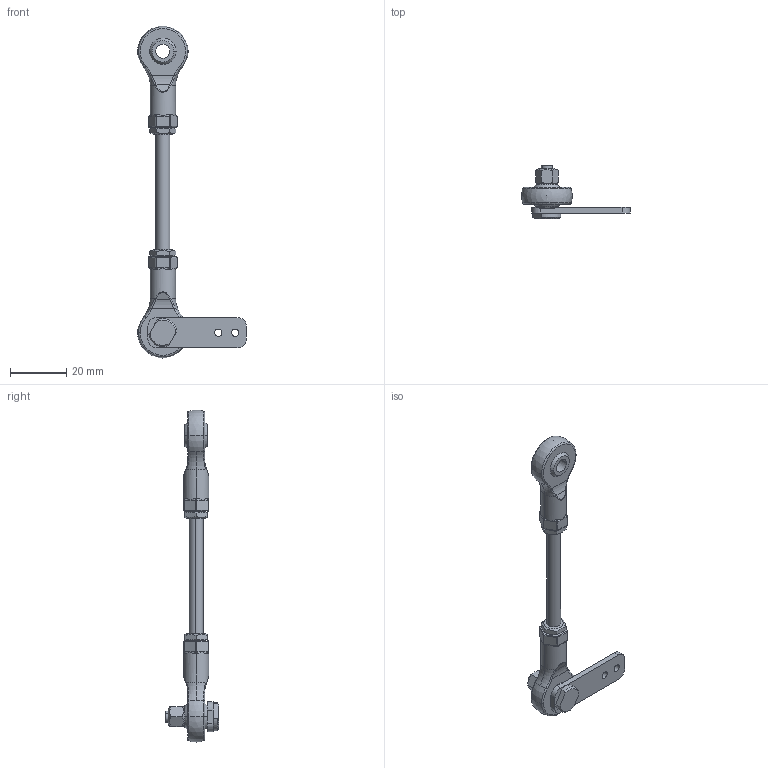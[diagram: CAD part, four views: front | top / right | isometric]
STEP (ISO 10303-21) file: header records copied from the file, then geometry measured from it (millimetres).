
FILE_DESCRIPTION (( 'STEP AP214' ), '1' );
FILE_NAME ('8.0010.40T0.0000.STEP', '2008-10-23T08:14:57', ( 'admin' ), ( 'Fritz Kübler GmbH' ), 'SwSTEP 2.0', 'SolidWorks 2008', '' );
FILE_SCHEMA (( 'AUTOMOTIVE_DESIGN' ));
Length unit declared in the file: millimetre
Products named in the file (1): 8.0010.40T0.0000
Bounding box: 38.7 x 19 x 118 mm (x, y, z)
Volume: 7542.3 mm3; surface area: 6080.2 mm2
Topology: 8 solids, 8 shells, 292 faces, 724 edges, 430 vertices
Faces by surface type: plane 90, cylinder 56, cone 52, bspline 52, torus 28, sphere 14
Entity records: 13108 total; most frequent: CARTESIAN_POINT 3337, ORIENTED_EDGE 1388, DIRECTION 1316, EDGE_CURVE 694, AXIS2_PLACEMENT_3D 549, VERTEX_POINT 426, EDGE_LOOP 316, CIRCLE 308
